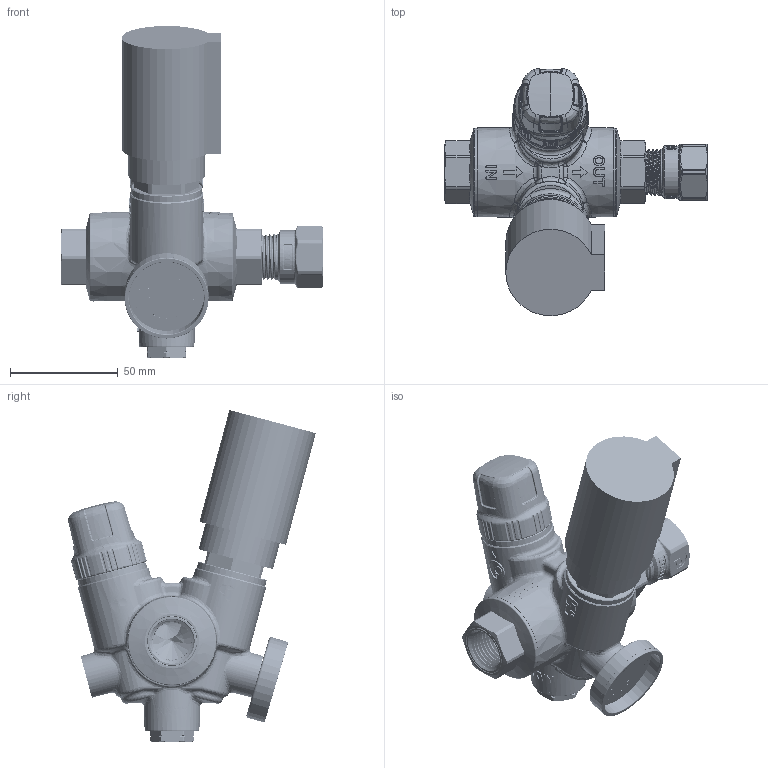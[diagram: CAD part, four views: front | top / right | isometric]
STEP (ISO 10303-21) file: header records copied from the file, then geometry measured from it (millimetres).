
FILE_DESCRIPTION(('Open CASCADE Model'),'2;1');
FILE_NAME('Open CASCADE Shape Model','2022-08-03T09:36:04',('Author'),( 'Open CASCADE'),'Open CASCADE STEP processor 7.3','Open CASCADE 7.3' ,'Unknown');
FILE_SCHEMA(('AUTOMOTIVE_DESIGN { 1 0 10303 214 1 1 1 1 }'));
Length unit declared in the file: millimetre
Products named in the file (25): Open CASCADE STEP translator 7.3 1; Open CASCADE STEP translator 7.3 1.1; Open CASCADE STEP translator 7.3 1.1.1; Open CASCADE STEP translator 7.3 1.1.2; Open CASCADE STEP translator 7.3 1.1.3; Open CASCADE STEP translator 7.3 1.1.4; Open CASCADE STEP translator 7.3 1.1.5; Open CASCADE STEP translator 7.3 1.1.6; Open CASCADE STEP translator 7.3 1.1.7; Open CASCADE STEP translator 7.3 1.1.8; Open CASCADE STEP translator 7.3 1.1.9; Open CASCADE STEP translator 7.3 1.1.10; Open CASCADE STEP translator 7.3 1.1.11; Open CASCADE STEP translator 7.3 1.1.12; Open CASCADE STEP translator 7.3 1.1.13; Open CASCADE STEP translator 7.3 1.1.14; Open CASCADE STEP translator 7.3 1.1.15; Open CASCADE STEP translator 7.3 1.1.16; Open CASCADE STEP translator 7.3 1.1.17; Open CASCADE STEP translator 7.3 1.1.18; Open CASCADE STEP translator 7.3 1.1.19; Open CASCADE STEP translator 7.3 1.2; Open CASCADE STEP translator 7.3 1.2.1; Open CASCADE STEP translator 7.3 1.2.2; Open CASCADE STEP translator 7.3 1.2.3
Assembly tree (24 placements, depth 3):
  Open CASCADE STEP translator 7.3 1
    Open CASCADE STEP translator 7.3 1.1
      Open CASCADE STEP translator 7.3 1.1.1
      Open CASCADE STEP translator 7.3 1.1.2
      Open CASCADE STEP translator 7.3 1.1.3
      Open CASCADE STEP translator 7.3 1.1.4
      Open CASCADE STEP translator 7.3 1.1.5
      Open CASCADE STEP translator 7.3 1.1.6
      Open CASCADE STEP translator 7.3 1.1.7
      Open CASCADE STEP translator 7.3 1.1.8
      Open CASCADE STEP translator 7.3 1.1.9
      Open CASCADE STEP translator 7.3 1.1.10
      Open CASCADE STEP translator 7.3 1.1.11
      Open CASCADE STEP translator 7.3 1.1.12
      Open CASCADE STEP translator 7.3 1.1.13
      Open CASCADE STEP translator 7.3 1.1.14
      Open CASCADE STEP translator 7.3 1.1.15
      Open CASCADE STEP translator 7.3 1.1.16
      Open CASCADE STEP translator 7.3 1.1.17
      Open CASCADE STEP translator 7.3 1.1.18
      Open CASCADE STEP translator 7.3 1.1.19
    Open CASCADE STEP translator 7.3 1.2
      Open CASCADE STEP translator 7.3 1.2.1
      Open CASCADE STEP translator 7.3 1.2.2
      Open CASCADE STEP translator 7.3 1.2.3
Bounding box: 122 x 114.88 x 154.02 mm (x, y, z)
Volume: 232855.4 mm3; surface area: 107591.7 mm2
Topology: 22 solids, 23 shells, 5291 faces, 13704 edges, 8653 vertices
Faces by surface type: extrusion 1407, plane 1255, cylinder 1055, bspline 651, cone 486, torus 319, sphere 66, revolution 52
Full cylindrical faces by diameter (mm): 35.672 x1
Entity records: 589767 total; most frequent: CARTESIAN_POINT 349868, DIRECTION 32333, ORIENTED_EDGE 27368, PCURVE 27368, DEFINITIONAL_REPRESENTATION 27368, B_SPLINE_CURVE_WITH_KNOTS 20812, VECTOR 18437, LINE 17030
